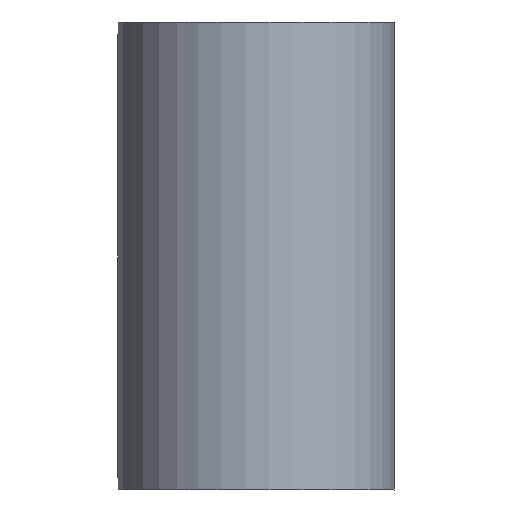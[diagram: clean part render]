
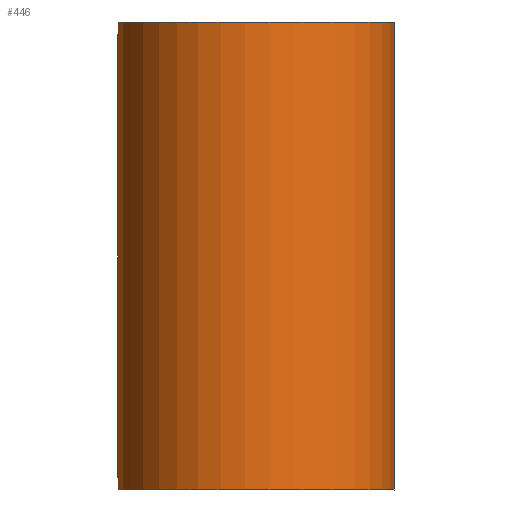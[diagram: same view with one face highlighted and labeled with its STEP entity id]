
A CAD part, front view. The second image highlights one B-rep face of the part: STEP entity #446.
In plain terms, the highlighted cylindrical face has radius 75 mm (diameter 150 mm), a full revolution.
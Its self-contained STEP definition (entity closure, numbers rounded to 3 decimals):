
#50=FACE_OUTER_BOUND('',#75,.T.);
#75=EDGE_LOOP('',(#385,#386,#387,#388,#389,#390,#391,#392,#393,#394,#395,
#396));
#87=CIRCLE('',#476,75.);
#88=CIRCLE('',#477,75.);
#93=CIRCLE('',#486,75.);
#101=CIRCLE('',#501,75.);
#102=CIRCLE('',#502,75.);
#108=CIRCLE('',#512,75.);
#122=LINE('',#708,#150);
#126=LINE('',#717,#154);
#135=LINE('',#837,#163);
#139=LINE('',#846,#167);
#144=LINE('',#908,#172);
#150=VECTOR('',#532,10.);
#154=VECTOR('',#538,10.);
#163=VECTOR('',#597,10.);
#167=VECTOR('',#603,10.);
#172=VECTOR('',#640,75.);
#182=VERTEX_POINT('',#706);
#183=VERTEX_POINT('',#707);
#186=VERTEX_POINT('',#715);
#187=VERTEX_POINT('',#716);
#194=VERTEX_POINT('',#768);
#204=VERTEX_POINT('',#835);
#205=VERTEX_POINT('',#836);
#208=VERTEX_POINT('',#844);
#209=VERTEX_POINT('',#845);
#216=VERTEX_POINT('',#896);
#226=EDGE_CURVE('',#182,#183,#122,.T.);
#230=EDGE_CURVE('',#186,#187,#126,.T.);
#241=EDGE_CURVE('',#187,#194,#87,.T.);
#242=EDGE_CURVE('',#194,#182,#88,.T.);
#247=EDGE_CURVE('',#186,#183,#93,.T.);
#258=EDGE_CURVE('',#204,#205,#135,.T.);
#262=EDGE_CURVE('',#208,#209,#139,.T.);
#272=EDGE_CURVE('',#216,#204,#101,.T.);
#273=EDGE_CURVE('',#209,#216,#102,.T.);
#279=EDGE_CURVE('',#216,#194,#144,.T.);
#280=EDGE_CURVE('',#208,#205,#108,.T.);
#385=ORIENTED_EDGE('',*,*,#262,.T.);
#386=ORIENTED_EDGE('',*,*,#273,.T.);
#387=ORIENTED_EDGE('',*,*,#279,.T.);
#388=ORIENTED_EDGE('',*,*,#241,.F.);
#389=ORIENTED_EDGE('',*,*,#230,.F.);
#390=ORIENTED_EDGE('',*,*,#247,.T.);
#391=ORIENTED_EDGE('',*,*,#226,.F.);
#392=ORIENTED_EDGE('',*,*,#242,.F.);
#393=ORIENTED_EDGE('',*,*,#279,.F.);
#394=ORIENTED_EDGE('',*,*,#272,.T.);
#395=ORIENTED_EDGE('',*,*,#258,.T.);
#396=ORIENTED_EDGE('',*,*,#280,.F.);
#424=CYLINDRICAL_SURFACE('',#511,75.);
#446=ADVANCED_FACE('',(#50),#424,.T.);
#476=AXIS2_PLACEMENT_3D('',#769,#555,#556);
#477=AXIS2_PLACEMENT_3D('',#770,#557,#558);
#486=AXIS2_PLACEMENT_3D('',#779,#575,#576);
#501=AXIS2_PLACEMENT_3D('',#897,#618,#619);
#502=AXIS2_PLACEMENT_3D('',#898,#620,#621);
#511=AXIS2_PLACEMENT_3D('',#907,#638,#639);
#512=AXIS2_PLACEMENT_3D('',#909,#641,#642);
#532=DIRECTION('',(0.,0.,-1.));
#538=DIRECTION('',(0.,0.,1.));
#555=DIRECTION('center_axis',(0.,0.,-1.));
#556=DIRECTION('ref_axis',(1.,0.,0.));
#557=DIRECTION('center_axis',(0.,0.,-1.));
#558=DIRECTION('ref_axis',(1.,0.,0.));
#575=DIRECTION('center_axis',(0.,0.,1.));
#576=DIRECTION('ref_axis',(1.,0.,0.));
#597=DIRECTION('',(0.,0.,1.));
#603=DIRECTION('',(0.,0.,-1.));
#618=DIRECTION('center_axis',(0.,0.,-1.));
#619=DIRECTION('ref_axis',(1.,0.,0.));
#620=DIRECTION('center_axis',(0.,0.,-1.));
#621=DIRECTION('ref_axis',(1.,0.,0.));
#638=DIRECTION('center_axis',(0.,0.,1.));
#639=DIRECTION('ref_axis',(1.,0.,0.));
#640=DIRECTION('',(0.,0.,-1.));
#641=DIRECTION('center_axis',(0.,0.,1.));
#642=DIRECTION('ref_axis',(1.,0.,0.));
#706=CARTESIAN_POINT('',(-74.649,7.25,-254.201));
#707=CARTESIAN_POINT('',(-74.649,7.25,-261.001));
#708=CARTESIAN_POINT('',(-74.649,7.25,-197.751));
#715=CARTESIAN_POINT('',(-74.649,-7.25,-261.001));
#716=CARTESIAN_POINT('',(-74.649,-7.25,-254.201));
#717=CARTESIAN_POINT('',(-74.649,-7.25,-197.751));
#768=CARTESIAN_POINT('',(-75.,0.,-254.201));
#769=CARTESIAN_POINT('Origin',(0.,0.,-254.201));
#770=CARTESIAN_POINT('Origin',(0.,0.,-254.201));
#779=CARTESIAN_POINT('Origin',(0.,0.,-261.001));
#835=CARTESIAN_POINT('',(-74.649,7.25,-14.8));
#836=CARTESIAN_POINT('',(-74.649,7.25,-8.));
#837=CARTESIAN_POINT('',(-74.649,7.25,-71.25));
#844=CARTESIAN_POINT('',(-74.649,-7.25,-8.));
#845=CARTESIAN_POINT('',(-74.649,-7.25,-14.8));
#846=CARTESIAN_POINT('',(-74.649,-7.25,-71.25));
#896=CARTESIAN_POINT('',(-75.,0.,-14.8));
#897=CARTESIAN_POINT('Origin',(0.,0.,-14.8));
#898=CARTESIAN_POINT('Origin',(0.,0.,-14.8));
#907=CARTESIAN_POINT('Origin',(0.,0.,-71.25));
#908=CARTESIAN_POINT('',(-75.,0.,-71.25));
#909=CARTESIAN_POINT('Origin',(0.,0.,-8.));
